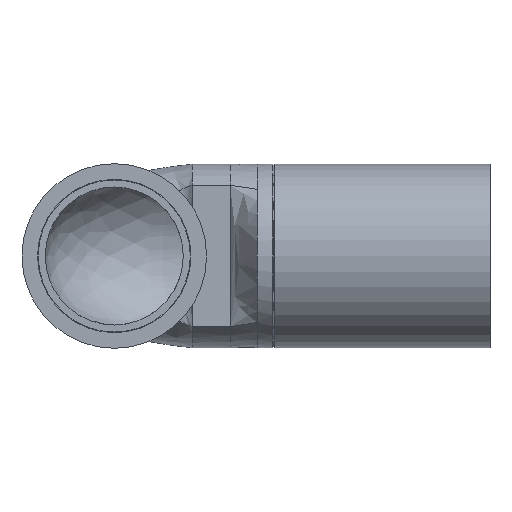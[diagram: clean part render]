
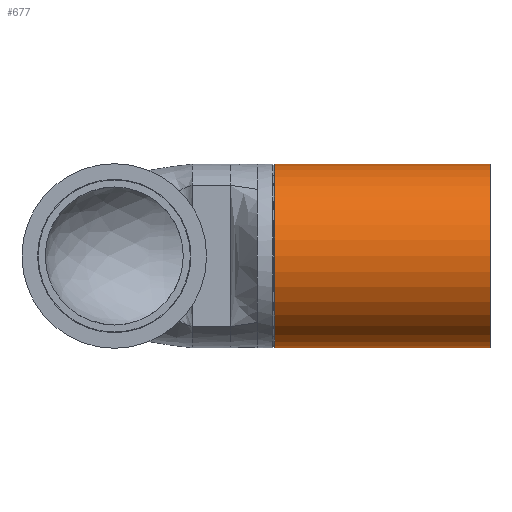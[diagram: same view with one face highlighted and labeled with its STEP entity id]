
A CAD part, left-side view. The second image highlights one B-rep face of the part: STEP entity #677.
In plain terms, the highlighted cylindrical face has radius 55.2 mm (diameter 110.4 mm), a full revolution.
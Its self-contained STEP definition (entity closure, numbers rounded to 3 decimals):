
#103=CYLINDRICAL_SURFACE($,#743,55.2);
#119=FACE_BOUND($,#200,.T.);
#152=FACE_OUTER_BOUND($,#199,.T.);
#199=EDGE_LOOP($,(#477));
#200=EDGE_LOOP($,(#478));
#260=CIRCLE($,#725,55.2);
#275=CIRCLE($,#744,55.2);
#296=VERTEX_POINT($,#940);
#313=VERTEX_POINT($,#1174);
#358=EDGE_CURVE($,#296,#296,#260,.T.);
#379=EDGE_CURVE($,#313,#313,#275,.T.);
#477=ORIENTED_EDGE($,*,*,#358,.T.);
#478=ORIENTED_EDGE($,*,*,#379,.F.);
#677=ADVANCED_FACE($,(#152,#119),#103,.T.);
#725=AXIS2_PLACEMENT_3D($,#941,#796,#797);
#743=AXIS2_PLACEMENT_3D($,#1173,#838,#839);
#744=AXIS2_PLACEMENT_3D($,#1175,#840,#841);
#796=DIRECTION('center_axis',(0.,-1.,0.));
#797=DIRECTION('ref_axis',(1.,0.,0.));
#838=DIRECTION('center_axis',(0.,1.,0.));
#839=DIRECTION('ref_axis',(1.,0.,0.));
#840=DIRECTION('center_axis',(0.,-1.,0.));
#841=DIRECTION('ref_axis',(1.,0.,0.));
#940=CARTESIAN_POINT('',(55.2,129.363,0.));
#941=CARTESIAN_POINT('Origin',(0.,129.363,0.));
#1173=CARTESIAN_POINT('Origin',(0.,0.,0.));
#1174=CARTESIAN_POINT('',(-55.2,0.,0.));
#1175=CARTESIAN_POINT('Origin',(0.,0.,0.));
